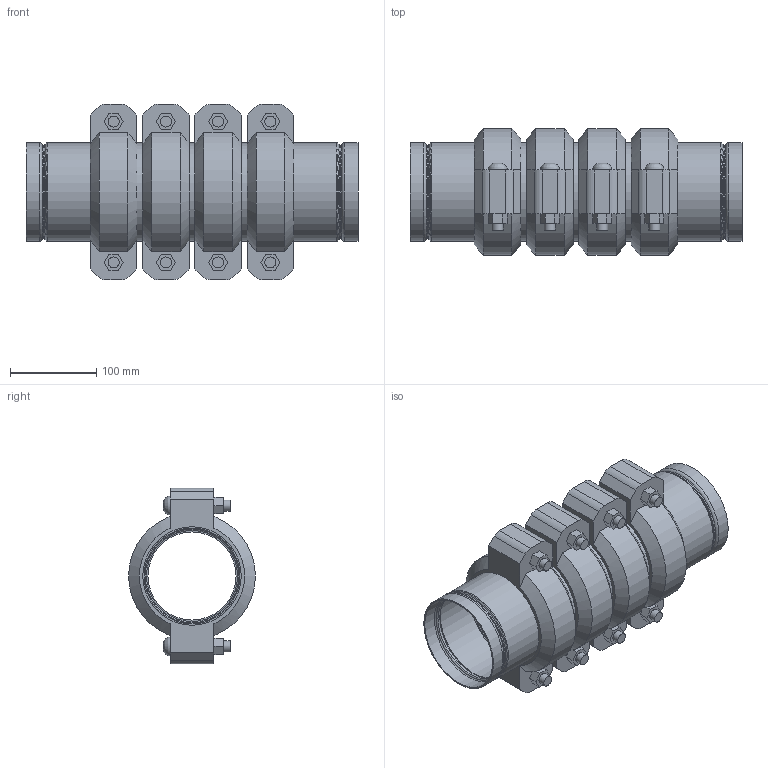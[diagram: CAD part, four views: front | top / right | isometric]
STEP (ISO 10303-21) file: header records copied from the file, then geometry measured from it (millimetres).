
FILE_DESCRIPTION(/* description */ ('VIC STRENGTHIN 100 EXPANSION JOINT 4 COUPLINGS COMPRESSED STYLE E155 (ST1)','CAx-IF Rec.Pracs.---Representation and Presentation of Product Manufacturing Information (PMI)---4.0---2014-10-13'),/* implementation_level */ '2;1');
FILE_NAME(/* name */ 'C:\Users\Vjadhav\AppData\Roaming\Autodesk\ApplicationPlugins\Victaulic.Temp\A975\Victaulic_SS-StrengThin 100_Expansion Joint_Compressed_4 Couplings_Style E155 (ST1)_4 (100).stp',/* time_stamp */ '2021-07-23T12:31:30+05:00',/* author */ ('kkamble'),/* organization */ ('Victaulic'),/* preprocessor_version */ 'ST-DEVELOPER v17.2',/* originating_system */ 'Autodesk Inventor 2019',/* authorisation */ '');
FILE_SCHEMA (('AP242_MANAGED_MODEL_BASED_3D_ENGINEERING_MIM_LF { 1 0 10303 442 1 1 4 }'));
Length unit declared in the file: inch
Products named in the file (4): E155-04.0; E494G-04.0; Nipple-04.0; 075-04.0
Assembly tree (9 placements, depth 2):
  E155-04.0
    E494G-04.0  x2
    Nipple-04.0  x3
    075-04.0  x4
Bounding box: 385.32 x 147.32 x 203.96 mm (x, y, z)
Volume: 2373091.5 mm3; surface area: 599745.1 mm2
Topology: 9 solids, 17 shells, 316 faces, 820 edges, 582 vertices
Faces by surface type: plane 166, cylinder 90, torus 32, cone 20, bspline 8
Full cylindrical faces by diameter (mm): 12.7 x16, 14.605 x8, 102.26 x3, 105.639 x2, 106.883 x2, 108.839 x2, 110.084 x8, 111.1 x6, 114.3 x19
Entity records: 3631 total; most frequent: DIRECTION 643, CARTESIAN_POINT 641, ORIENTED_EDGE 536, AXIS2_PLACEMENT_3D 273, EDGE_CURVE 268, VERTEX_POINT 193, CIRCLE 163, EDGE_LOOP 123
